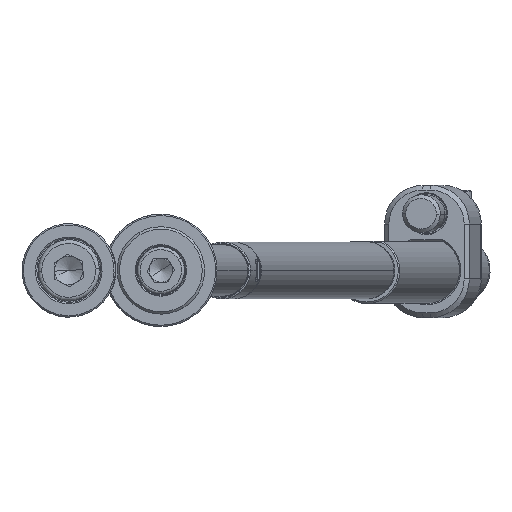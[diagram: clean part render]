
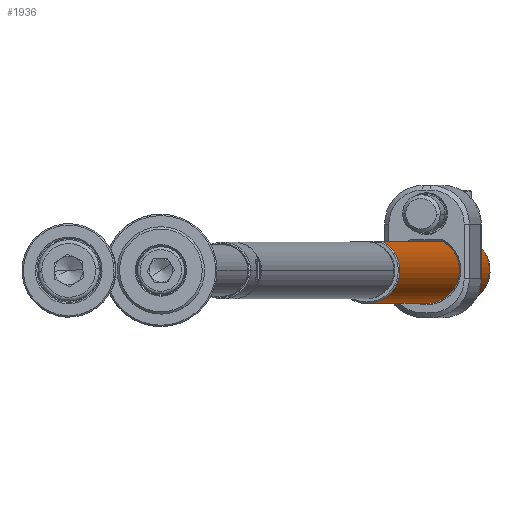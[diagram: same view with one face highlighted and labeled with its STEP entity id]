
A CAD part, front view. The second image highlights one B-rep face of the part: STEP entity #1936.
In plain terms, the highlighted cylindrical face has radius 7 mm (diameter 14 mm), a partial arc.
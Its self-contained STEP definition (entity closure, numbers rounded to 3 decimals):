
#357 = EDGE_CURVE ( 'NONE', #14022, #6684, #5475, .T. ) ;
#393 = B_SPLINE_CURVE_WITH_KNOTS ( 'NONE', 3,
 ( #12583, #7873, #8012, #12298 ),
 .UNSPECIFIED., .F., .F.,
 ( 4, 4 ),
 ( 0., 0. ),
 .UNSPECIFIED. ) ;
#531 = AXIS2_PLACEMENT_3D ( 'NONE', #12151, #2249, #11124 ) ;
#734 = CARTESIAN_POINT ( 'NONE',  ( 6.1, -3.434, 12.052 ) ) ;
#803 = CARTESIAN_POINT ( 'NONE',  ( -7., 0., 0.3 ) ) ;
#1149 = VERTEX_POINT ( 'NONE', #11729 ) ;
#1334 = ORIENTED_EDGE ( 'NONE', *, *, #357, .T. ) ;
#1452 = VECTOR ( 'NONE', #8854, 1000. ) ;
#1503 = CARTESIAN_POINT ( 'NONE',  ( 6.2, -3.25, 0.3 ) ) ;
#1936 = ADVANCED_FACE ( 'NONE', ( #3400 ), #5446, .T. ) ;
#2249 = DIRECTION ( 'NONE',  ( 0., 0., 1. ) ) ;
#2528 = CARTESIAN_POINT ( 'NONE',  ( 6.2, -3.25, 12.5 ) ) ;
#2853 = CARTESIAN_POINT ( 'NONE',  ( 5.78, -3.95, 9.275 ) ) ;
#3045 = ORIENTED_EDGE ( 'NONE', *, *, #12384, .T. ) ;
#3230 = VECTOR ( 'NONE', #4835, 1000. ) ;
#3400 = FACE_OUTER_BOUND ( 'NONE', #4570, .T. ) ;
#3514 = CARTESIAN_POINT ( 'NONE',  ( 6.2, -3.25, 12.5 ) ) ;
#3515 = EDGE_CURVE ( 'NONE', #6684, #9733, #8904, .T. ) ;
#3557 = ORIENTED_EDGE ( 'NONE', *, *, #3515, .T. ) ;
#3847 = B_SPLINE_CURVE_WITH_KNOTS ( 'NONE', 3,
 ( #5969, #7363, #13707, #13836, #11481, #9406, #5180, #12627, #2853, #7305, #11759, #4963, #8369, #6176 ),
 .UNSPECIFIED., .F., .F.,
 ( 4, 2, 2, 2, 2, 2, 4 ),
 ( 0., 0.001, 0.001, 0.003, 0.004, 0.004, 0.005 ),
 .UNSPECIFIED. ) ;
#3947 = ORIENTED_EDGE ( 'NONE', *, *, #5891, .F. ) ;
#4290 = CARTESIAN_POINT ( 'NONE',  ( -7., 0., 199.7 ) ) ;
#4394 = AXIS2_PLACEMENT_3D ( 'NONE', #6534, #4504, #13042 ) ;
#4428 = B_SPLINE_CURVE_WITH_KNOTS ( 'NONE', 3,
 ( #9358, #6943, #11209, #3514 ),
 .UNSPECIFIED., .F., .F.,
 ( 4, 4 ),
 ( 0., 0. ),
 .UNSPECIFIED. ) ;
#4504 = DIRECTION ( 'NONE',  ( 0., 0., -1. ) ) ;
#4545 = CIRCLE ( 'NONE', #5709, 7. ) ;
#4570 = EDGE_LOOP ( 'NONE', ( #9151, #1334, #3557, #3947, #13719, #14187, #3045, #11288 ) ) ;
#4835 = DIRECTION ( 'NONE',  ( 0., 0., -1. ) ) ;
#4963 = CARTESIAN_POINT ( 'NONE',  ( 6.001, -3.604, 8.256 ) ) ;
#5006 = DIRECTION ( 'NONE',  ( 0., 0., -1. ) ) ;
#5180 = CARTESIAN_POINT ( 'NONE',  ( 5.745, -4., 10.372 ) ) ;
#5446 = CYLINDRICAL_SURFACE ( 'NONE', #4394, 7. ) ;
#5475 = LINE ( 'NONE', #9937, #1452 ) ;
#5709 = AXIS2_PLACEMENT_3D ( 'NONE', #12530, #10155, #12453 ) ;
#5891 = EDGE_CURVE ( 'NONE', #6408, #9733, #13661, .T. ) ;
#5969 = CARTESIAN_POINT ( 'NONE',  ( 6.1, -3.434, 12.052 ) ) ;
#6031 = VERTEX_POINT ( 'NONE', #734 ) ;
#6176 = CARTESIAN_POINT ( 'NONE',  ( 6.1, -3.434, 7.948 ) ) ;
#6225 = CARTESIAN_POINT ( 'NONE',  ( 6.2, -3.25, 200. ) ) ;
#6408 = VERTEX_POINT ( 'NONE', #13981 ) ;
#6534 = CARTESIAN_POINT ( 'NONE',  ( 0., 0., 200. ) ) ;
#6684 = VERTEX_POINT ( 'NONE', #803 ) ;
#6943 = CARTESIAN_POINT ( 'NONE',  ( 6.131, -3.379, 12.204 ) ) ;
#7305 = CARTESIAN_POINT ( 'NONE',  ( 5.876, -3.805, 8.752 ) ) ;
#7363 = CARTESIAN_POINT ( 'NONE',  ( 6.049, -3.524, 11.901 ) ) ;
#7873 = CARTESIAN_POINT ( 'NONE',  ( 6.164, -3.317, 7.646 ) ) ;
#8012 = CARTESIAN_POINT ( 'NONE',  ( 6.131, -3.379, 7.796 ) ) ;
#8369 = CARTESIAN_POINT ( 'NONE',  ( 6.049, -3.524, 8.099 ) ) ;
#8854 = DIRECTION ( 'NONE',  ( 0., 0., -1. ) ) ;
#8904 = CIRCLE ( 'NONE', #531, 7. ) ;
#9151 = ORIENTED_EDGE ( 'NONE', *, *, #12071, .T. ) ;
#9313 = VECTOR ( 'NONE', #5006, 1000. ) ;
#9358 = CARTESIAN_POINT ( 'NONE',  ( 6.1, -3.434, 12.052 ) ) ;
#9406 = CARTESIAN_POINT ( 'NONE',  ( 5.781, -3.95, 10.729 ) ) ;
#9554 = EDGE_CURVE ( 'NONE', #6408, #13946, #393, .T. ) ;
#9733 = VERTEX_POINT ( 'NONE', #1503 ) ;
#9937 = CARTESIAN_POINT ( 'NONE',  ( -7., 0., 200. ) ) ;
#10155 = DIRECTION ( 'NONE',  ( 0., 0., -1. ) ) ;
#10367 = EDGE_CURVE ( 'NONE', #1149, #11845, #14115, .T. ) ;
#10614 = CARTESIAN_POINT ( 'NONE',  ( 6.1, -3.434, 7.948 ) ) ;
#11124 = DIRECTION ( 'NONE',  ( 1., 0., 0. ) ) ;
#11209 = CARTESIAN_POINT ( 'NONE',  ( 6.164, -3.317, 12.354 ) ) ;
#11288 = ORIENTED_EDGE ( 'NONE', *, *, #10367, .F. ) ;
#11481 = CARTESIAN_POINT ( 'NONE',  ( 5.876, -3.804, 11.25 ) ) ;
#11729 = CARTESIAN_POINT ( 'NONE',  ( 6.2, -3.25, 199.7 ) ) ;
#11759 = CARTESIAN_POINT ( 'NONE',  ( 5.915, -3.744, 8.582 ) ) ;
#11845 = VERTEX_POINT ( 'NONE', #2528 ) ;
#12071 = EDGE_CURVE ( 'NONE', #1149, #14022, #4545, .T. ) ;
#12151 = CARTESIAN_POINT ( 'NONE',  ( 0., 0., 0.3 ) ) ;
#12298 = CARTESIAN_POINT ( 'NONE',  ( 6.1, -3.434, 7.948 ) ) ;
#12384 = EDGE_CURVE ( 'NONE', #6031, #11845, #4428, .T. ) ;
#12453 = DIRECTION ( 'NONE',  ( 1., 0., 0. ) ) ;
#12530 = CARTESIAN_POINT ( 'NONE',  ( 0., 0., 199.7 ) ) ;
#12583 = CARTESIAN_POINT ( 'NONE',  ( 6.2, -3.25, 7.5 ) ) ;
#12587 = CARTESIAN_POINT ( 'NONE',  ( 6.2, -3.25, 200. ) ) ;
#12627 = CARTESIAN_POINT ( 'NONE',  ( 5.744, -4., 9.635 ) ) ;
#13042 = DIRECTION ( 'NONE',  ( -1., 0., 0. ) ) ;
#13661 = LINE ( 'NONE', #12587, #3230 ) ;
#13707 = CARTESIAN_POINT ( 'NONE',  ( 6.002, -3.604, 11.745 ) ) ;
#13719 = ORIENTED_EDGE ( 'NONE', *, *, #9554, .T. ) ;
#13836 = CARTESIAN_POINT ( 'NONE',  ( 5.915, -3.744, 11.42 ) ) ;
#13875 = EDGE_CURVE ( 'NONE', #6031, #13946, #3847, .T. ) ;
#13946 = VERTEX_POINT ( 'NONE', #10614 ) ;
#13981 = CARTESIAN_POINT ( 'NONE',  ( 6.2, -3.25, 7.5 ) ) ;
#14022 = VERTEX_POINT ( 'NONE', #4290 ) ;
#14115 = LINE ( 'NONE', #6225, #9313 ) ;
#14187 = ORIENTED_EDGE ( 'NONE', *, *, #13875, .F. ) ;
